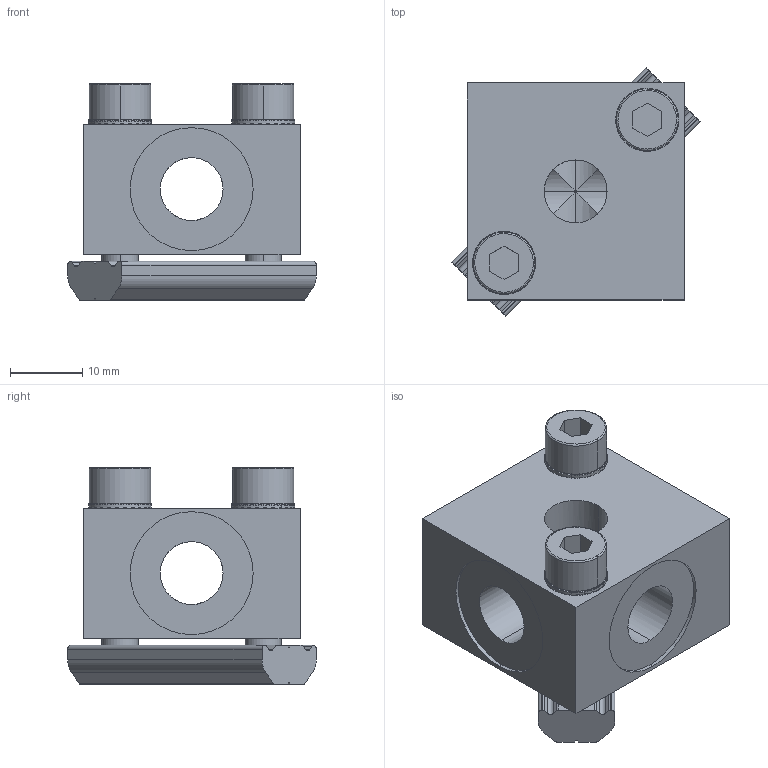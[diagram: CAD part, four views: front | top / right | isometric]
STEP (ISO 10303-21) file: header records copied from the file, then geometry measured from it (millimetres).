
FILE_DESCRIPTION (( 'STEP AP214' ), '1' );
FILE_NAME ('SMB-A5G18T.STEP', '2023-01-06T07:59:33', ( 'Windows User' ), ( 'P R C' ), 'SwSTEP 2.0', 'SolidWorks 2018', '' );
FILE_SCHEMA (( 'AUTOMOTIVE_DESIGN' ));
Length unit declared in the file: millimetre
Products named in the file (1): SMB-A5G18T
Bounding box: 34.37 x 34.37 x 30 mm (x, y, z)
Volume: 14847.7 mm3; surface area: 8654 mm2
Topology: 7 solids, 7 shells, 708 faces, 2050 edges, 1351 vertices
Faces by surface type: plane 636, cylinder 64, cone 4, bspline 4
Entity records: 31668 total; most frequent: CARTESIAN_POINT 4594, ORIENTED_EDGE 4100, DIRECTION 4082, EDGE_CURVE 2050, AXIS2_PLACEMENT_3D 1373, VERTEX_POINT 1351, LINE 1336, VECTOR 1336
